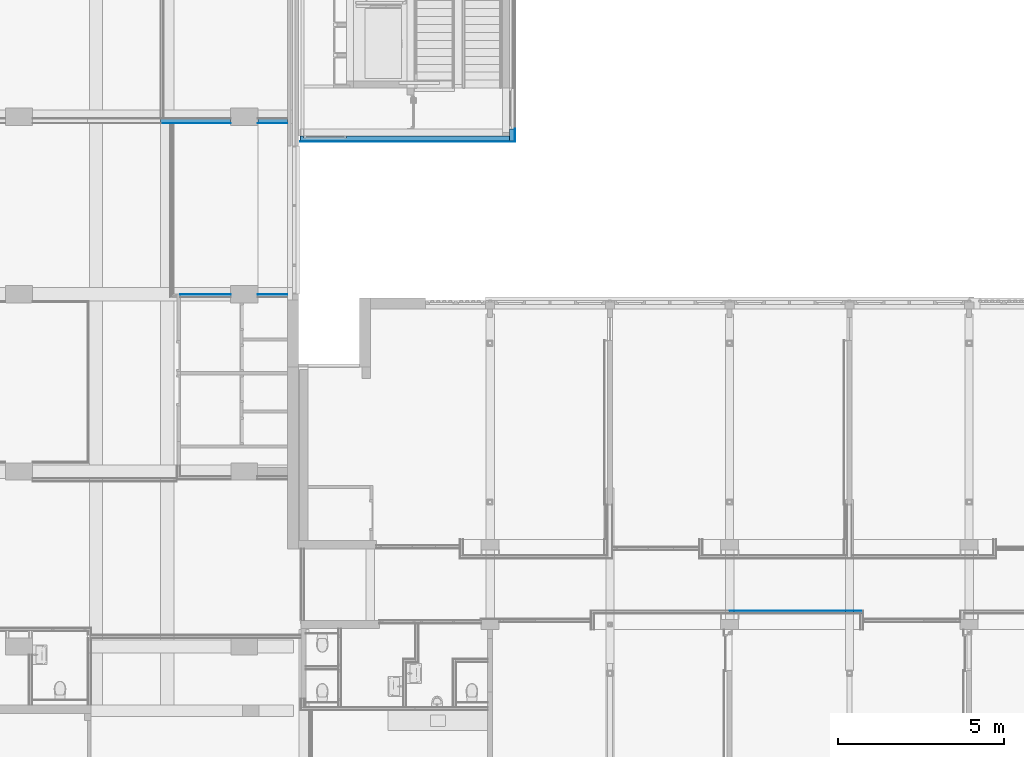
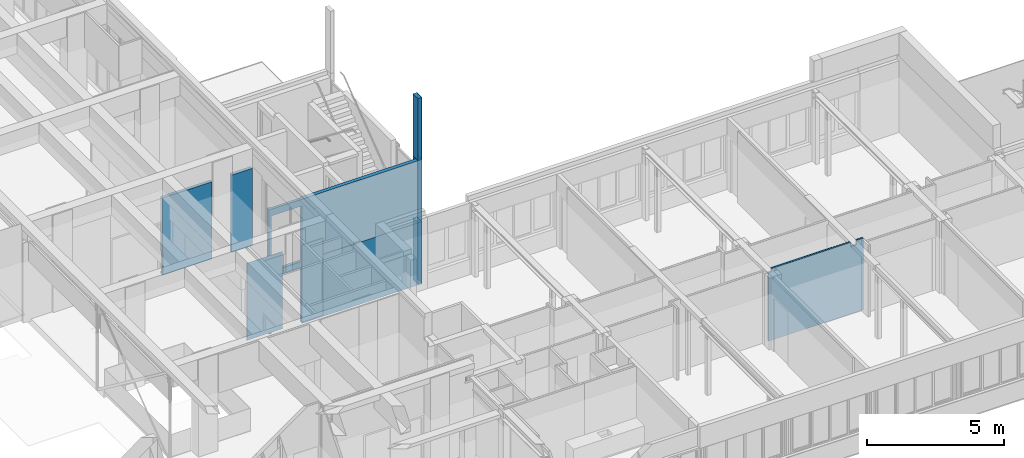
# One storey, part 85 of 117: 18 building element parts, 3 openings, 8 elements without a shape of their own.
"""IFC2X3 building model written with IfcOpenShell, lengths in millimetres."""

from ifc_helpers import new_model, entity, si_unit, converted_unit, derived_unit, money_unit, direction, frame, origin_with_axes, place, context, subcontext, project, spatial, faceted_brep, material, type_object, element, aggregate, save


model = new_model("IFC2X3")

# Units and contexts
model_context = context("Model", 3, precision=0.01, world=origin_with_axes(), true_north=direction((0.0, 1.0)))
body_context = subcontext(model_context, "Body", "Model", "MODEL_VIEW")
ifc_project = project(units=[si_unit("LENGTHUNIT", "METRE", prefix="MILLI"), si_unit("AREAUNIT", "SQUARE_METRE"), si_unit("VOLUMEUNIT", "CUBIC_METRE"), converted_unit("PLANEANGLEUNIT", "DEGREE", entity("IfcPlaneAngleMeasure", 0.0174532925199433), si_unit("PLANEANGLEUNIT", "RADIAN"), dimensions=[0, 0, 0, 0, 0, 0, 0]), money_unit("EUR"), converted_unit("TIMEUNIT", "Year", entity("IfcTimeMeasure", 31557600.0), si_unit("TIMEUNIT", "SECOND"), dimensions=[0, 0, 1, 0, 0, 0, 0]), si_unit("MASSUNIT", "GRAM", prefix="KILO"), si_unit("THERMODYNAMICTEMPERATUREUNIT", "DEGREE_CELSIUS"), si_unit("LUMINOUSINTENSITYUNIT", "LUMEN"), si_unit("ENERGYUNIT", "JOULE", prefix="MEGA"), derived_unit("THERMALCONDUCTANCEUNIT", [(si_unit("POWERUNIT", "WATT"), 1), (si_unit("LENGTHUNIT", "METRE"), -1), (si_unit("THERMODYNAMICTEMPERATUREUNIT", "KELVIN"), -1)]), derived_unit("SPECIFICHEATCAPACITYUNIT", [(si_unit("ENERGYUNIT", "JOULE"), 1), (si_unit("MASSUNIT", "GRAM", prefix="KILO"), -1), (si_unit("THERMODYNAMICTEMPERATUREUNIT", "KELVIN"), -1)]), derived_unit("MASSDENSITYUNIT", [(si_unit("MASSUNIT", "GRAM", prefix="KILO"), 1), (si_unit("VOLUMEUNIT", "CUBIC_METRE"), -1)])], contexts=[model_context])

# Site, building, storey
site_placement = place(None, origin_with_axes())
site = spatial("IfcSite", under=ifc_project, at=site_placement, Name="Site", CompositionType="ELEMENT")
building_placement = place(site_placement, origin_with_axes())
building = spatial("IfcBuilding", under=site, at=building_placement, Name="Naam gebouw", CompositionType="ELEMENT")
storey_placement = place(building_placement, frame((0.0, 0.0, 4150.0), z_axis=(0.0, 0.0, 1.0), x_axis=(1.0, 0.0, 0.0)))
storey = spatial("IfcBuildingStorey", under=building, at=storey_placement, Name="1e verdieping N", CompositionType="ELEMENT", Elevation=4150.0)

# Wall, openings, building element parts
wall_type_1 = type_object("IfcWallType", Name="Basic Wall:41_WA_stucwerk op iso 170mm", PredefinedType="STANDARD")
wall_1_placement = place(storey_placement, frame((30291.00000002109, 32626.41242629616, -3770.00000000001), z_axis=(0.0, 0.0, 1.0), x_axis=(1.0, 0.0, 0.0)))
wall_1 = element("IfcWall", 1, at=wall_1_placement, inside=storey, type_object=wall_type_1, Name="Basic Wall:41_WA_stucwerk op iso 170mm")
opening_1_placement = place(wall_1_placement, frame((-30291.00000002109, -32626.41242629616, -379.9999999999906), z_axis=(0.0, 0.0, 1.0), x_axis=(1.0, 0.0, 0.0)))
element("IfcOpeningElement", 2, at=opening_1_placement, cuts=wall_1, Name="Basic Wall:41_WA_stucwerk op iso 170mm", context=body_context, shape_type="Brep", body=[
    faceted_brep([(30391.0000000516, 32388.51242639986, 379.9999999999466), (30391.0000000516, 32388.51242639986, 2850.000000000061), (30391.00000005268, 32864.31242639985, 2850.000000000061), (30391.00000005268, 32864.31242639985, 379.9999999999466), (31685.01028266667, 32388.51242639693, 379.9999999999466), (31685.01028266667, 32388.51242639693, 2850.000000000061), (31685.01028266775, 32864.31242639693, 2850.000000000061), (31685.01028266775, 32864.31242639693, 379.9999999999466)], [[[0, 1, 2, 3]], [[0, 4, 5, 1]], [[1, 5, 6, 2]], [[3, 2, 6, 7]], [[4, 0, 3, 7]], [[5, 4, 7, 6]]]),
])
opening_2_placement = place(wall_1_placement, frame((-30291.00000002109, -32626.41242629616, -379.9999999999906), z_axis=(0.0, 0.0, 1.0), x_axis=(1.0, 0.0, 0.0)))
element("IfcOpeningElement", 3, at=opening_2_placement, cuts=wall_1, Name="Basic Wall:41_WA_stucwerk op iso 170mm", context=body_context, shape_type="Brep", body=[
    faceted_brep([(30394.47296358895, 32388.51242628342, 379.9999999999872), (30394.47296358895, 32388.51242628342, 2850.00000000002), (30394.47296359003, 32864.31242628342, 2850.00000000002), (30394.47296359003, 32864.31242628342, 379.9999999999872), (31685.00000003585, 32388.51242628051, 379.9999999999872), (31685.00000003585, 32388.51242628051, 2850.00000000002), (31685.00000003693, 32864.31242628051, 2850.00000000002), (31685.00000003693, 32864.31242628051, 379.9999999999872)], [[[0, 1, 2, 3]], [[0, 4, 5, 1]], [[1, 5, 6, 2]], [[3, 2, 6, 7]], [[4, 0, 3, 7]], [[5, 4, 7, 6]]]),
])
ifc_material_1 = material(Name="isolatie_080_1-100")
building_element_part_1_placement = place(wall_1_placement, origin_with_axes())
building_element_part_1 = element("IfcBuildingElementPart", 4, at=building_element_part_1_placement, material=ifc_material_1, Name="isolatie_080_1-100", context=body_context, shape_type="Brep", body=[
    faceted_brep([(1394.002198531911, 85.50030896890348, 2470.000000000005), (1394.002198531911, 85.50030896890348, 2770.000000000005), (6289.000000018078, 85.50000012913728, 2770.000000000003), (6289.000000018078, 85.50000012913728, 0.0), (1394.010282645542, 85.50000008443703, 0.0), (1394.002198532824, -14.49969103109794, 2770.000000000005), (1394.002198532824, -14.49969103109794, 2470.000000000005), (1394.002198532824, -14.49969103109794, 2475.900000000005), (1394.002198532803, -12.15654528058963, 2481.556854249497), (1394.00219853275, -6.499691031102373, 2483.900000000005), (1394.002198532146, 59.50030896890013, 2487.200000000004), (1394.002198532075, 67.5003089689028, 2489.343593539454), (1394.002198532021, 73.35671542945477, 2495.200000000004), (1394.002198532, 75.50030896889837, 2503.200000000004), (1394.002198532, 75.50030896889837, 2736.800000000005), (1394.002198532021, 73.35671542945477, 2744.800000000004), (1394.002198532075, 67.5003089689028, 2750.656406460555), (1394.002198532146, 59.50030896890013, 2752.800000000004), (1394.00219853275, -6.499691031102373, 2756.100000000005), (1394.002198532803, -12.15654528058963, 2758.443145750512), (1394.002198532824, -14.49969103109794, 2764.100000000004), (100.0000000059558, -14.49969104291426, 2770.000000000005), (100.0000000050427, 85.50030895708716, 2770.000000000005), (-7.780442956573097e-10, 85.50000007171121, 2770.000000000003), (6.821210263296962e-10, -74.49999992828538, 2770.000000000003), (6289.000000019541, -74.49999987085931, 2770.000000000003), (6289.000000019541, -74.49999987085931, 0.0), (1394.01028264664, -74.49999991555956, 0.0), (1394.01028264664, -74.49999991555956, 2470.000000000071), (100.0000000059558, -14.49969104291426, 2470.000000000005), (100.0000000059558, -14.49969104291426, 2475.900000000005), (100.0000000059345, -12.15654529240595, 2481.556854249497), (100.0000000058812, -6.499691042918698, 2483.900000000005), (100.0000000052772, 59.5003089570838, 2487.200000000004), (100.0000000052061, 67.50030895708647, 2489.343593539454), (100.0000000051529, 73.35671541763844, 2495.200000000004), (100.0000000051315, 75.50030895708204, 2503.200000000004), (100.0000000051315, 75.50030895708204, 2736.800000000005), (100.0000000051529, 73.35671541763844, 2744.800000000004), (100.0000000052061, 67.50030895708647, 2750.656406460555), (100.0000000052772, 59.5003089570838, 2752.800000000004), (100.0000000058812, -6.499691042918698, 2756.100000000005), (100.0000000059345, -12.15654529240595, 2758.443145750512), (100.0000000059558, -14.49969104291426, 2764.100000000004), (100.0000000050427, 85.50030895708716, 2470.000000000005), (100.000000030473, 85.50000007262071, 0.0), (-7.780442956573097e-10, 85.50000007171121, 0.0), (6.821210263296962e-10, -74.49999992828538, 0.0), (100.0000000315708, -74.49999992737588, 2470.000000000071), (100.0000000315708, -74.49999992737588, 0.0)], [[[0, 1, 2, 3, 4]], [[5, 1, 0, 6, 7, 8, 9, 10, 11, 12, 13, 14, 15, 16, 17, 18, 19, 20]], [[21, 22, 23, 24, 25, 2, 1, 5]], [[3, 2, 25, 26]], [[26, 27, 4, 3]], [[6, 0, 4, 27, 28]], [[6, 29, 30, 7]], [[31, 8, 7, 30]], [[32, 9, 8, 31]], [[33, 10, 9, 32]], [[34, 11, 10, 33]], [[35, 12, 11, 34]], [[36, 13, 12, 35]], [[37, 14, 13, 36]], [[38, 15, 14, 37]], [[39, 16, 15, 38]], [[40, 17, 16, 39]], [[41, 18, 17, 40]], [[42, 19, 18, 41]], [[43, 20, 19, 42]], [[21, 5, 20, 43]], [[44, 22, 21, 43, 42, 41, 40, 39, 38, 37, 36, 35, 34, 33, 32, 31, 30, 29]], [[22, 44, 45, 46, 23]], [[24, 23, 46, 47]], [[48, 28, 27, 26, 25, 24, 47, 49]], [[29, 6, 28, 48]], [[44, 29, 48, 49, 45]], [[46, 45, 49, 47]]]),
])
ifc_material_2 = material(Name="stucwerk - gevel gebouw V RAL 7044")
building_element_part_2_placement = place(wall_1_placement, origin_with_axes())
building_element_part_2 = element("IfcBuildingElementPart", 5, at=building_element_part_2_placement, material=ifc_material_2, Name="stucwerk - gevel gebouw V RAL 7044", context=body_context, shape_type="Brep", body=[
    faceted_brep([(100.0000000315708, -74.49999992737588, 2470.000000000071), (100.0000000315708, -74.49999992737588, 0.0), (6.821210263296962e-10, -74.49999992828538, 0.0), (6.821210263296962e-10, -74.49999992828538, 2770.000000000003), (6449.000000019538, -74.4999998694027, 2770.000000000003), (6449.000000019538, -74.4999998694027, 0.0), (1394.01028264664, -74.49999991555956, 0.0), (1394.01028264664, -74.49999991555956, 2470.000000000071), (100.0000000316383, -84.499999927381, 2470.000000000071), (100.0000000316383, -84.499999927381, 0.0), (7.709388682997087e-10, -84.49999992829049, 0.0), (7.709388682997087e-10, -84.49999992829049, 2770.000000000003), (6449.000000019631, -84.49999986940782, 2770.000000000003), (6449.000000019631, -84.49999986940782, 0.0), (1394.010282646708, -84.49999991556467, 0.0), (1394.010282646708, -84.49999991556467, 2470.000000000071)], [[[0, 1, 2, 3, 4, 5, 6, 7]], [[1, 0, 8, 9]], [[1, 9, 10, 2]], [[3, 2, 10, 11]], [[4, 3, 11, 12]], [[4, 12, 13, 5]], [[14, 6, 5, 13]], [[7, 6, 14, 15]], [[0, 7, 15, 8]], [[15, 14, 13, 12, 11, 10, 9, 8]]]),
])
ifc_material_3 = material(Name="Verflaag ral 7044  Zijdengrijs Isostuc")
building_element_part_3_placement = place(wall_1_placement, origin_with_axes())
building_element_part_3 = element("IfcBuildingElementPart", 6, at=building_element_part_3_placement, material=ifc_material_3, Name="Verflaag ral 7044  Zijdengrijs Isostuc", context=body_context, shape_type="Brep", body=[
    faceted_brep([(100.0000000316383, -84.499999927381, 2470.000000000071), (100.0000000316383, -84.499999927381, 0.0), (7.709388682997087e-10, -84.49999992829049, 0.0), (7.709388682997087e-10, -84.49999992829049, 2770.000000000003), (6459.000000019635, -84.49999986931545, 2770.000000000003), (6459.000000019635, -84.49999986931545, 0.0), (1394.010282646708, -84.49999991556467, 0.0), (1394.010282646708, -84.49999991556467, 2470.000000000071), (100.0000000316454, -85.49999992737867, 2470.000000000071), (100.0000000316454, -85.49999992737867, 0.0), (7.815970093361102e-10, -85.49999992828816, 0.0), (7.815970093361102e-10, -85.49999992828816, 2770.000000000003), (6459.000000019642, -85.49999986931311, 2770.000000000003), (6459.000000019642, -85.49999986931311, 0.0), (1394.010282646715, -85.49999991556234, 0.0), (1394.010282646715, -85.49999991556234, 2470.000000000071)], [[[0, 1, 2, 3, 4, 5, 6, 7]], [[1, 0, 8, 9]], [[1, 9, 10, 2]], [[3, 2, 10, 11]], [[4, 3, 11, 12]], [[4, 12, 13, 5]], [[14, 6, 5, 13]], [[7, 6, 14, 15]], [[0, 7, 15, 8]], [[15, 14, 13, 12, 11, 10, 9, 8]]]),
])
aggregate(wall_1, [building_element_part_1, building_element_part_2, building_element_part_3])

# Wall, building element parts
wall_2_placement = place(storey_placement, frame((36665.50000002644, 32925.91242631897, -3770.00000000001), z_axis=(0.0, 0.0, 1.0), x_axis=(0.0, -1.0, 0.0)))
wall_2 = element("IfcWall", 7, at=wall_2_placement, inside=storey, type_object=wall_type_1, Name="Basic Wall:41_WA_stucwerk op iso 170mm")
building_element_part_4_placement = place(wall_2_placement, origin_with_axes())
building_element_part_4 = element("IfcBuildingElementPart", 8, at=building_element_part_4_placement, material=ifc_material_2, Name="stucwerk - gevel gebouw V RAL 7044", context=body_context, shape_type="Brep", body=[
    faceted_brep([(0.0, 74.50000001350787, 2770.000000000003), (383.9999999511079, 74.50000001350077, 2770.000000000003), (383.9999999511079, 84.50000001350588, 2770.000000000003), (0.0, 84.50000001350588, 2770.000000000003), (0.0, 74.50000001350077, 0.0), (383.9999999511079, 74.50000001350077, 0.0), (383.9999999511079, 84.50000001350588, 0.0), (0.0, 84.50000001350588, 0.0)], [[[0, 1, 2, 3]], [[4, 5, 1, 0]], [[5, 6, 2, 1]], [[3, 2, 6, 7]], [[4, 0, 3, 7]], [[7, 6, 5, 4]]]),
])
building_element_part_5_placement = place(wall_2_placement, origin_with_axes())
building_element_part_5 = element("IfcBuildingElementPart", 9, at=building_element_part_5_placement, material=ifc_material_1, Name="isolatie_080_1-100", context=body_context, shape_type="Brep", body=[
    faceted_brep([(0.0, -85.49999998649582, 0.0), (0.0, -85.49999998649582, 2600.00000000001), (0.0, -84.49999999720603, 2600.00000000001), (0.0, -84.49999999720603, 2770.00000000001), (0.0, 74.50000001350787, 2770.000000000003), (0.0, 74.50000001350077, 0.0), (214.0000000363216, -85.49999998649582, 2770.00000000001), (214.0000000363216, -85.49999998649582, 2600.00000000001), (373.9999999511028, -85.49999998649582, 0.0), (373.9999999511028, -85.49999998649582, 2770.000000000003), (214.0000000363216, -84.49999999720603, 2600.00000000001), (214.0000000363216, -84.49999999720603, 2770.00000000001), (373.9999999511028, 74.50000001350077, 2770.000000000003), (373.9999999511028, 74.50000001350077, 0.0)], [[[0, 1, 2, 3, 4, 5]], [[6, 7, 1, 0, 8, 9]], [[10, 2, 1, 7]], [[10, 11, 3, 2]], [[3, 11, 6, 9, 12, 4]], [[5, 4, 12, 13]], [[0, 5, 13, 8]], [[7, 6, 11, 10]], [[9, 8, 13, 12]]]),
])
building_element_part_6_placement = place(wall_2_placement, origin_with_axes())
building_element_part_6 = element("IfcBuildingElementPart", 10, at=building_element_part_6_placement, material=ifc_material_3, Name="Verflaag ral 7044  Zijdengrijs Isostuc", context=body_context, shape_type="Brep", body=[
    faceted_brep([(0.0, 84.50000001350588, 2770.000000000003), (384.9999999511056, 84.50000001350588, 2770.000000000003), (384.9999999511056, 85.50000001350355, 2770.000000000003), (0.0, 85.50000001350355, 2770.000000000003), (0.0, 84.50000001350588, 0.0), (384.9999999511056, 84.50000001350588, 0.0), (384.9999999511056, 85.50000001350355, 0.0), (0.0, 85.50000001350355, 0.0)], [[[0, 1, 2, 3]], [[4, 5, 1, 0]], [[5, 6, 2, 1]], [[3, 2, 6, 7]], [[0, 3, 7, 4]], [[7, 6, 5, 4]]]),
])
aggregate(wall_2, [building_element_part_4, building_element_part_5, building_element_part_6])

wall_type_2 = type_object("IfcWallType", Name="Metalstud iso 150 150", PredefinedType="NOTDEFINED")
wall_3_placement = place(storey_placement, frame((29906.0, 33235.9124251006, -99.99999999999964), z_axis=(0.0, 0.0, 1.0), x_axis=(-1.0, 0.0, 0.0)))
wall_3 = element("IfcWall", 11, at=wall_3_placement, inside=storey, type_object=wall_type_2, Name="_Wand-x")
ifc_material_4 = material(Name="Gipsplaat")
building_element_part_7_placement = place(wall_3_placement, origin_with_axes())
building_element_part_7 = element("IfcBuildingElementPart", 12, at=building_element_part_7_placement, material=ifc_material_4, Name="Gipsplaat", context=body_context, shape_type="Brep", body=[
    faceted_brep([(0.0, 137.5000000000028, 99.99999999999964), (890.0000000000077, 137.5000000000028, 99.99999999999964), (890.0000000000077, 137.5000000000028, 3549.999999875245), (0.0, 137.5000000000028, 3549.999999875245), (0.0, 149.9999999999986, 99.99999999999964), (890.0000000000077, 149.9999998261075, 99.99999999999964), (890.0000000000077, 149.9999999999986, 3549.999999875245), (0.0, 149.9999999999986, 3549.999999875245)], [[[0, 1, 2, 3]], [[4, 5, 1, 0]], [[5, 6, 2, 1]], [[3, 2, 6, 7]], [[4, 0, 3, 7]], [[7, 6, 5, 4]]]),
    faceted_brep([(1710.000000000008, 149.9999999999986, 3549.999999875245), (1710.000000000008, 137.5000000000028, 3549.999999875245), (3813.359287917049, 137.5000000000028, 3549.999999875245), (3813.359287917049, 149.9999999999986, 3549.999999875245), (1710.000000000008, 137.5000000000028, 99.99999999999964), (1710.000000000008, 149.9999996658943, 99.99999999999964), (3813.359287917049, 137.5000000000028, 99.99999999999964), (3813.359287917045, 137.5000000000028, 199.9999999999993), (3795.359287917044, 137.5000000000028, 199.9999999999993), (3795.359287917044, 137.5000000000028, 1110.0), (3813.359287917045, 137.5000000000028, 1110.0), (3813.359287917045, 149.9999985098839, 1110.0), (3795.359287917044, 149.9999985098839, 1110.0), (3795.359287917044, 149.9999985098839, 199.9999999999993), (3813.359287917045, 149.9999985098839, 199.9999999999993), (3813.359287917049, 149.9999992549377, 99.99999999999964)], [[[0, 1, 2, 3]], [[4, 1, 0, 5]], [[1, 4, 6, 7, 8, 9, 10, 2]], [[11, 3, 2, 10]], [[5, 0, 3, 11, 12, 13, 14, 15]], [[4, 5, 15, 6]], [[14, 7, 6, 15]], [[7, 14, 13, 8]], [[8, 13, 12, 9]], [[9, 12, 11, 10]]]),
])
ifc_material_5 = material(Name="Isolatie - Steenwol LSW")
building_element_part_8_placement = place(wall_3_placement, origin_with_axes())
building_element_part_8 = element("IfcBuildingElementPart", 13, at=building_element_part_8_placement, material=ifc_material_5, Name="Isolatie - Steenwol LSW", context=body_context, shape_type="Brep", body=[
    faceted_brep([(0.0, 12.50000000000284, 99.99999999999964), (890.0000000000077, 12.50000000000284, 99.99999999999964), (890.0000000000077, 12.50000000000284, 3549.999999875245), (0.0, 12.50000000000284, 3549.999999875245), (0.0, 137.5000000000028, 99.99999999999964), (890.0000000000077, 137.5000000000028, 99.99999999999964), (890.0000000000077, 137.5000000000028, 3549.999999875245), (0.0, 137.5000000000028, 3549.999999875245)], [[[0, 1, 2, 3]], [[4, 5, 1, 0]], [[5, 6, 2, 1]], [[3, 2, 6, 7]], [[4, 0, 3, 7]], [[7, 6, 5, 4]]]),
    faceted_brep([(1710.000000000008, 137.5000000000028, 3549.999999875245), (1710.000000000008, 12.50000000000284, 3549.999999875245), (3813.359287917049, 12.50000000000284, 3549.999999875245), (3813.359287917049, 137.5000000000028, 3549.999999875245), (1710.000000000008, 12.50000000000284, 99.99999999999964), (1710.000000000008, 137.5000000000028, 99.99999999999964), (3813.359287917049, 12.50000000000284, 99.99999999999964), (3813.359287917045, 12.50000000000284, 199.9999999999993), (3795.359287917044, 12.50000000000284, 199.9999999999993), (3795.359287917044, 12.50000000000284, 1110.0), (3813.359287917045, 12.50000000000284, 1110.0), (3813.359287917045, 137.5000000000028, 1110.0), (3795.359287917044, 137.5000000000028, 1110.0), (3795.359287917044, 137.5000000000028, 199.9999999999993), (3813.359287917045, 137.5000000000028, 199.9999999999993), (3813.359287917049, 137.5000000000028, 99.99999999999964)], [[[0, 1, 2, 3]], [[4, 1, 0, 5]], [[1, 4, 6, 7, 8, 9, 10, 2]], [[11, 3, 2, 10]], [[5, 0, 3, 11, 12, 13, 14, 15]], [[4, 5, 15, 6]], [[14, 7, 6, 15]], [[7, 14, 13, 8]], [[8, 13, 12, 9]], [[9, 12, 11, 10]]]),
])
aggregate(wall_3, [building_element_part_7, building_element_part_8])

# Wall, opening, building element part
wall_4_placement = place(storey_placement, frame((30293.50000005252, 32626.41242629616, -1000.0), z_axis=(0.0, 0.0, 1.0), x_axis=(1.0, 0.0, 0.0)))
wall_4 = element("IfcWall", 14, at=wall_4_placement, inside=storey, type_object=wall_type_1, Name="Basic Wall:41_WA_stucwerk op iso 170mm")
opening_3_placement = place(wall_4_placement, frame((-30293.50000005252, -32626.41242629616, -3150.0), z_axis=(0.0, 0.0, 1.0), x_axis=(1.0, 0.0, 0.0)))
element("IfcOpeningElement", 15, at=opening_3_placement, cuts=wall_4, Name="Basic Wall:41_WA_stucwerk op iso 170mm", context=body_context, shape_type="Brep", body=[
    faceted_brep([(30391.00000003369, 32388.51242640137, 3149.999999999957), (30391.00000003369, 32388.51242640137, 5620.000000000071), (30391.00000003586, 32864.31242640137, 5620.000000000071), (30391.00000003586, 32864.31242640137, 3149.999999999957), (31685.01028264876, 32388.51242639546, 3149.999999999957), (31685.01028264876, 32388.51242639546, 5620.000000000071), (31685.01028265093, 32864.31242639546, 5620.000000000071), (31685.01028265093, 32864.31242639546, 3149.999999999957)], [[[0, 1, 2, 3]], [[0, 4, 5, 1]], [[1, 5, 6, 2]], [[3, 2, 6, 7]], [[4, 0, 3, 7]], [[5, 4, 7, 6]]]),
])
building_element_part_9_placement = place(wall_4_placement, origin_with_axes())
building_element_part_9 = element("IfcBuildingElementPart", 16, at=building_element_part_9_placement, material=ifc_material_1, Name="isolatie_080_1-100", context=body_context, shape_type="Brep", body=[
    faceted_brep([(1391.502198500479, 85.50030896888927, 2470.000000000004), (1391.502198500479, 85.50030896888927, 2770.000000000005), (6286.49999998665, 85.50000012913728, 2770.000000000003), (6286.49999998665, 85.50000012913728, 0.0), (1391.51028259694, 85.50000008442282, 0.0), (1391.502198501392, -14.49969103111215, 2770.000000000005), (1391.502198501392, -14.49969103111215, 2470.000000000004), (1391.502198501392, -14.49969103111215, 2475.900000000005), (1391.502198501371, -12.15654528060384, 2481.556854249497), (1391.502198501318, -6.499691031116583, 2483.900000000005), (1391.502198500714, 59.50030896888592, 2487.200000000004), (1391.502198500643, 67.50030896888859, 2489.343593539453), (1391.502198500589, 73.35671542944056, 2495.200000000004), (1391.502198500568, 75.50030896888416, 2503.200000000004), (1391.502198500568, 75.50030896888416, 2736.800000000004), (1391.502198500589, 73.35671542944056, 2744.800000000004), (1391.502198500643, 67.50030896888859, 2750.656406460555), (1391.502198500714, 59.50030896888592, 2752.800000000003), (1391.502198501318, -6.499691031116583, 2756.100000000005), (1391.502198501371, -12.15654528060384, 2758.443145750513), (1391.502198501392, -14.49969103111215, 2764.100000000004), (97.49999997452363, -14.49969104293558, 2770.000000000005), (97.49999997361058, 85.50030895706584, 2770.000000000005), (-7.780442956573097e-10, 85.50000007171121, 2770.000000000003), (6.821210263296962e-10, -74.49999992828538, 2770.000000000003), (6286.499999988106, -74.49999987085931, 2770.000000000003), (6286.499999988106, -74.49999987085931, 0.0), (1391.510282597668, -74.49999991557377, 0.0), (1391.510282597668, -74.49999991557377, 2470.000000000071), (97.49999997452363, -14.49969104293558, 2470.000000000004), (97.49999997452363, -14.49969104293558, 2475.900000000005), (97.49999997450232, -12.15654529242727, 2481.556854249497), (97.49999997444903, -6.499691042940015, 2483.900000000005), (97.49999997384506, 59.50030895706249, 2487.200000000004), (97.49999997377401, 67.50030895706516, 2489.343593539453), (97.49999997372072, 73.35671541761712, 2495.200000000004), (97.4999999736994, 75.50030895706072, 2503.200000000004), (97.4999999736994, 75.50030895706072, 2736.800000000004), (97.49999997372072, 73.35671541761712, 2744.800000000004), (97.49999997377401, 67.50030895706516, 2750.656406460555), (97.49999997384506, 59.50030895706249, 2752.800000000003), (97.49999997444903, -6.499691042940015, 2756.100000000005), (97.49999997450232, -12.15654529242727, 2758.443145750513), (97.49999997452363, -14.49969104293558, 2764.100000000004), (97.49999997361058, 85.50030895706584, 2470.000000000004), (97.49999998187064, 85.50000007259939, 0.0), (-7.780442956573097e-10, 85.50000007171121, 0.0), (6.821210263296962e-10, -74.49999992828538, 0.0), (97.49999998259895, -74.4999999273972, 2470.000000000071), (97.49999998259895, -74.4999999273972, 0.0)], [[[0, 1, 2, 3, 4]], [[5, 1, 0, 6, 7, 8, 9, 10, 11, 12, 13, 14, 15, 16, 17, 18, 19, 20]], [[21, 22, 23, 24, 25, 2, 1, 5]], [[3, 2, 25, 26]], [[26, 27, 4, 3]], [[6, 0, 4, 27, 28]], [[6, 29, 30, 7]], [[31, 8, 7, 30]], [[32, 9, 8, 31]], [[33, 10, 9, 32]], [[34, 11, 10, 33]], [[35, 12, 11, 34]], [[36, 13, 12, 35]], [[37, 14, 13, 36]], [[38, 15, 14, 37]], [[39, 16, 15, 38]], [[40, 17, 16, 39]], [[41, 18, 17, 40]], [[42, 19, 18, 41]], [[43, 20, 19, 42]], [[21, 5, 20, 43]], [[44, 22, 21, 43, 42, 41, 40, 39, 38, 37, 36, 35, 34, 33, 32, 31, 30, 29]], [[22, 44, 45, 46, 23]], [[24, 23, 46, 47]], [[48, 28, 27, 26, 25, 24, 47, 49]], [[29, 6, 28, 48]], [[44, 29, 48, 49, 45]], [[46, 45, 49, 47]]]),
])
aggregate(wall_4, [building_element_part_9])

# Wall, building element parts
wall_5_placement = place(storey_placement, frame((36665.50000002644, 32925.91242631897, 1769.999999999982), z_axis=(0.0, 0.0, 1.0), x_axis=(0.0, -1.0, 0.0)))
wall_5 = element("IfcWall", 17, at=wall_5_placement, inside=storey, type_object=wall_type_1, Name="Basic Wall:41_WA_stucwerk op iso 170mm")
building_element_part_10_placement = place(wall_5_placement, origin_with_axes())
building_element_part_10 = element("IfcBuildingElementPart", 18, at=building_element_part_10_placement, material=ifc_material_3, Name="Verflaag ral 7044  Zijdengrijs Isostuc", context=body_context, shape_type="Brep", body=[
    faceted_brep([(0.0, 84.50000001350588, 2770.000000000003), (385.0000000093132, 84.50000001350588, 2770.000000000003), (385.0000000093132, 85.50000001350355, 2770.000000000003), (0.0, 85.50000001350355, 2770.000000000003), (0.0, 84.50000001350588, 0.0), (385.0000000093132, 84.50000001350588, 0.0), (385.0000000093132, 85.50000001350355, 0.0), (0.0, 85.50000001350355, 0.0)], [[[0, 1, 2, 3]], [[4, 5, 1, 0]], [[5, 6, 2, 1]], [[3, 2, 6, 7]], [[0, 3, 7, 4]], [[7, 6, 5, 4]]]),
])
building_element_part_11_placement = place(wall_5_placement, origin_with_axes())
building_element_part_11 = element("IfcBuildingElementPart", 19, at=building_element_part_11_placement, material=ifc_material_2, Name="stucwerk - gevel gebouw V RAL 7044", context=body_context, shape_type="Brep", body=[
    faceted_brep([(0.0, 74.50000001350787, 2770.000000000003), (384.0000000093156, 74.50000001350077, 2770.000000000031), (384.0000000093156, 84.50000001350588, 2770.000000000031), (0.0, 84.50000001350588, 2770.000000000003), (0.0, 74.50000001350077, 0.0), (384.0000000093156, 74.50000001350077, 0.0), (384.0000000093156, 84.50000001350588, 0.0), (0.0, 84.50000001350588, 0.0)], [[[0, 1, 2, 3]], [[4, 5, 1, 0]], [[5, 6, 2, 1]], [[3, 2, 6, 7]], [[4, 0, 3, 7]], [[7, 6, 5, 4]]]),
])
building_element_part_12_placement = place(wall_5_placement, origin_with_axes())
building_element_part_12 = element("IfcBuildingElementPart", 20, at=building_element_part_12_placement, material=ifc_material_1, Name="isolatie_080_1-100", context=body_context, shape_type="Brep", body=[
    faceted_brep([(0.0, -85.49999998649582, 2770.000000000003), (374.0000000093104, -85.49999998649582, 2770.000000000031), (374.0000000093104, 74.50000001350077, 2770.000000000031), (0.0, 74.50000001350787, 2770.000000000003), (0.0, -85.49999998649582, 0.0), (374.0000000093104, -85.49999998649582, 0.0), (374.0000000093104, 74.50000001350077, 0.0), (0.0, 74.50000001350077, 0.0)], [[[0, 1, 2, 3]], [[4, 5, 1, 0]], [[5, 6, 2, 1]], [[3, 2, 6, 7]], [[4, 0, 3, 7]], [[7, 6, 5, 4]]]),
])
aggregate(wall_5, [building_element_part_10, building_element_part_11, building_element_part_12])

wall_6_placement = place(storey_placement, frame((36665.50000002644, 32925.91242631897, -1000.0), z_axis=(0.0, 0.0, 1.0), x_axis=(0.0, -1.0, 0.0)))
wall_6 = element("IfcWall", 21, at=wall_6_placement, inside=storey, type_object=wall_type_1, Name="Basic Wall:41_WA_stucwerk op iso 170mm")
building_element_part_13_placement = place(wall_6_placement, origin_with_axes())
building_element_part_13 = element("IfcBuildingElementPart", 22, at=building_element_part_13_placement, material=ifc_material_2, Name="stucwerk - gevel gebouw V RAL 7044", context=body_context, shape_type="Brep", body=[
    faceted_brep([(0.0, 74.50000001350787, 2770.000000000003), (383.9999999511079, 74.50000001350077, 2770.000000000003), (383.9999999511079, 84.50000001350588, 2770.000000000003), (0.0, 84.50000001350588, 2770.000000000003), (0.0, 74.50000001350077, 0.0), (383.9999999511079, 74.50000001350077, 0.0), (383.9999999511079, 84.50000001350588, 0.0), (0.0, 84.50000001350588, 0.0)], [[[0, 1, 2, 3]], [[4, 5, 1, 0]], [[5, 6, 2, 1]], [[3, 2, 6, 7]], [[4, 0, 3, 7]], [[7, 6, 5, 4]]]),
])
building_element_part_14_placement = place(wall_6_placement, origin_with_axes())
building_element_part_14 = element("IfcBuildingElementPart", 23, at=building_element_part_14_placement, material=ifc_material_3, Name="Verflaag ral 7044  Zijdengrijs Isostuc", context=body_context, shape_type="Brep", body=[
    faceted_brep([(0.0, 84.50000001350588, 2770.000000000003), (384.9999999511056, 84.50000001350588, 2770.000000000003), (384.9999999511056, 85.50000001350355, 2770.000000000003), (0.0, 85.50000001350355, 2770.000000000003), (0.0, 84.50000001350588, 0.0), (384.9999999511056, 84.50000001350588, 0.0), (384.9999999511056, 85.50000001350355, 0.0), (0.0, 85.50000001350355, 0.0)], [[[0, 1, 2, 3]], [[4, 5, 1, 0]], [[5, 6, 2, 1]], [[3, 2, 6, 7]], [[0, 3, 7, 4]], [[7, 6, 5, 4]]]),
])
building_element_part_15_placement = place(wall_6_placement, origin_with_axes())
building_element_part_15 = element("IfcBuildingElementPart", 24, at=building_element_part_15_placement, material=ifc_material_1, Name="isolatie_080_1-100", context=body_context, shape_type="Brep", body=[
    faceted_brep([(0.0, -85.49999998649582, 0.0), (0.0, -85.49999998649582, 2600.00000000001), (0.0, -84.49999999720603, 2600.00000000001), (0.0, -84.49999999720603, 2770.00000000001), (0.0, 74.50000001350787, 2770.000000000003), (0.0, 74.50000001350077, 0.0), (214.0000000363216, -85.49999998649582, 2770.00000000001), (214.0000000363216, -85.49999998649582, 2600.00000000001), (373.9999999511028, -85.49999998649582, 0.0), (373.9999999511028, -85.49999998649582, 2770.000000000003), (214.0000000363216, -84.49999999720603, 2600.00000000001), (214.0000000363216, -84.49999999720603, 2770.00000000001), (373.9999999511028, 74.50000001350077, 2770.000000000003), (373.9999999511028, 74.50000001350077, 0.0)], [[[0, 1, 2, 3, 4, 5]], [[6, 7, 1, 0, 8, 9]], [[10, 2, 1, 7]], [[10, 11, 3, 2]], [[3, 11, 6, 9, 12, 4]], [[5, 4, 12, 13]], [[0, 5, 13, 8]], [[7, 6, 11, 10]], [[9, 8, 13, 12]]]),
])
aggregate(wall_6, [building_element_part_13, building_element_part_14, building_element_part_15])

# Wall, building element part
wall_type_3 = type_object("IfcWallType", Name="Metalstud iso 100 100", PredefinedType="NOTDEFINED")
wall_7_placement = place(storey_placement, frame((29906.0, 27955.91242510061, 0.0), z_axis=(0.0, 0.0, 1.0), x_axis=(-1.0, 0.0, 0.0)))
wall_7 = element("IfcWall", 25, at=wall_7_placement, inside=storey, type_object=wall_type_3, Name="_Wand-x")
building_element_part_16_placement = place(wall_7_placement, origin_with_axes())
building_element_part_16 = element("IfcBuildingElementPart", 26, at=building_element_part_16_placement, material=ifc_material_4, Name="Gipsplaat", context=body_context, shape_type="Brep", body=[
    faceted_brep([(1710.000000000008, 12.49999999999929, 3449.999999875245), (1710.000000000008, 0.0, 3449.999999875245), (3219.999999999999, 0.0, 3449.999999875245), (3219.999999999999, 12.49999999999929, 3449.999999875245), (1710.000000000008, 0.0, 0.0), (1710.000000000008, 12.49999999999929, 0.0), (3219.999999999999, 0.0, 0.0), (3219.999999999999, 12.49999999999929, 0.0)], [[[0, 1, 2, 3]], [[4, 1, 0, 5]], [[1, 4, 6, 2]], [[7, 3, 2, 6]], [[5, 0, 3, 7]], [[4, 5, 7, 6]]]),
    faceted_brep([(890.0000000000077, 0.0, 0.0), (890.0000000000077, 0.0, 3449.999999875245), (0.0, 0.0, 3449.999999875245), (0.0, 0.0, 0.0), (890.0000000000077, 12.49999999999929, 3449.999999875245), (890.0000000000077, 12.49999999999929, 0.0), (0.0, 12.49999999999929, 3449.999999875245), (0.0, 12.49999999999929, 0.0)], [[[0, 1, 2, 3]], [[4, 1, 0, 5]], [[1, 4, 6, 2]], [[3, 2, 6, 7]], [[5, 0, 3, 7]], [[4, 5, 7, 6]]]),
])
aggregate(wall_7, [building_element_part_16])

# Wall, building element parts
wall_8_placement = place(storey_placement, frame((43199.99999999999, 18345.9124251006, 0.0), z_axis=(0.0, 0.0, 1.0), x_axis=(1.0, 0.0, 0.0)))
wall_8 = element("IfcWall", 27, at=wall_8_placement, inside=storey, type_object=wall_type_3, Name="_Wand-x")
building_element_part_17_placement = place(wall_8_placement, origin_with_axes())
building_element_part_17 = element("IfcBuildingElementPart", 28, at=building_element_part_17_placement, material=ifc_material_4, Name="Gipsplaat", context=body_context, shape_type="Brep", body=[
    faceted_brep([(3475.000000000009, 100.0000000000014, 3000.0), (3725.000000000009, 100.0000000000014, 3000.0), (3725.000000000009, 100.0000000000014, 3200.0), (4020.00000000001, 100.0000000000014, 3200.0), (4020.00000000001, 100.0000000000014, 0.0), (0.0, 100.0000000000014, 0.0), (0.0, 100.0000000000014, 3049.999999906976), (125.0, 100.0000000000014, 3049.999999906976), (125.0, 100.0000000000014, 3200.0), (3475.000000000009, 100.0000000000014, 3200.0), (3475.000000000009, 87.50000000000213, 3000.0), (3725.000000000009, 87.50000000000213, 3000.0), (3725.000000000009, 87.50000000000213, 3200.0), (4020.00000000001, 87.50000000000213, 3200.0), (4020.00000000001, 87.49999999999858, 0.0), (0.0, 87.49999999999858, 0.0), (0.0, 87.49999999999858, 3049.999999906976), (125.0, 87.50000000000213, 3049.999999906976), (125.0, 87.49999999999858, 3200.0), (3475.000000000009, 87.50000000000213, 3200.0)], [[[0, 1, 2, 3, 4, 5, 6, 7, 8, 9]], [[1, 0, 10, 11]], [[12, 2, 1, 11]], [[2, 12, 13, 3]], [[4, 3, 13, 14]], [[5, 4, 14, 15]], [[16, 6, 5, 15]], [[7, 6, 16, 17]], [[18, 8, 7, 17]], [[19, 9, 8, 18]], [[0, 9, 19, 10]], [[10, 19, 18, 17, 16, 15, 14, 13, 12, 11]]]),
])
building_element_part_18_placement = place(wall_8_placement, origin_with_axes())
building_element_part_18 = element("IfcBuildingElementPart", 29, at=building_element_part_18_placement, material=ifc_material_5, Name="Isolatie - Steenwol LSW", context=body_context, shape_type="Brep", body=[
    faceted_brep([(3475.000000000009, 87.49999999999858, 3000.0), (3725.000000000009, 87.49999999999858, 3000.0), (3725.000000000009, 87.50000000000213, 3200.0), (4007.500000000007, 87.50000000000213, 3200.0), (4007.500000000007, 87.49999999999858, 0.0), (0.0, 87.49999999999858, 0.0), (0.0, 87.49999999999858, 3049.999999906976), (125.0, 87.49999999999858, 3049.999999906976), (125.0, 87.49999999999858, 3200.0), (3475.000000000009, 87.50000000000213, 3200.0), (3475.000000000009, 12.49999999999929, 3000.0), (3725.000000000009, 12.49999999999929, 3000.0), (3725.000000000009, 12.49999999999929, 3200.0), (4007.500000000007, 12.49999999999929, 3200.0), (4007.500000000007, 12.49999999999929, 0.0), (0.0, 12.49999999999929, 0.0), (0.0, 12.49999999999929, 3049.999999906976), (125.0, 12.49999999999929, 3049.999999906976), (125.0, 12.49999999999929, 3200.0), (3475.000000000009, 12.49999999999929, 3200.0)], [[[0, 1, 2, 3, 4, 5, 6, 7, 8, 9]], [[1, 0, 10, 11]], [[12, 2, 1, 11]], [[2, 12, 13, 3]], [[4, 3, 13, 14]], [[5, 4, 14, 15]], [[16, 6, 5, 15]], [[7, 6, 16, 17]], [[18, 8, 7, 17]], [[19, 9, 8, 18]], [[0, 9, 19, 10]], [[10, 19, 18, 17, 16, 15, 14, 13, 12, 11]]]),
])
aggregate(wall_8, [building_element_part_17, building_element_part_18])

save(model, "model.ifc")
